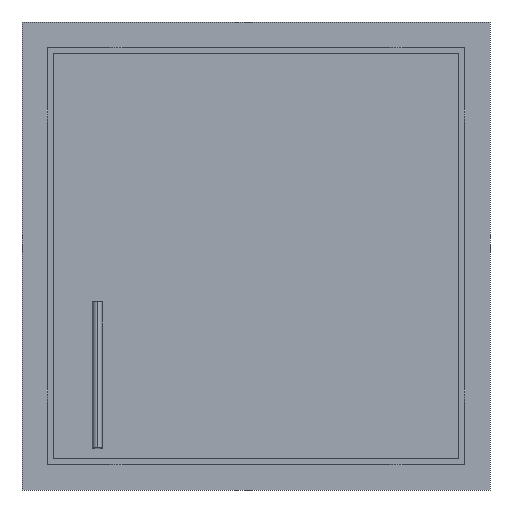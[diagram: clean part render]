
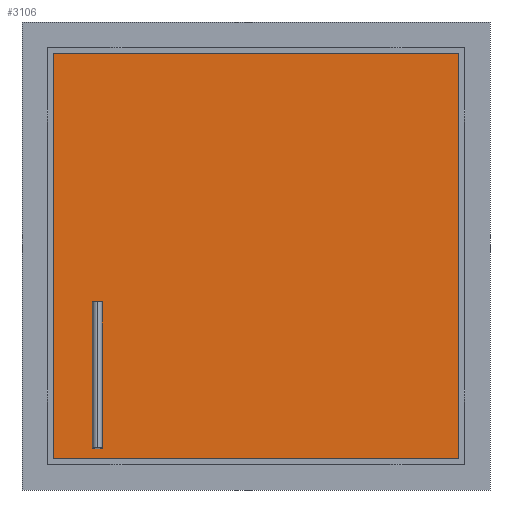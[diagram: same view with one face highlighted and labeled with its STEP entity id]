
A CAD part, front view. The second image highlights one B-rep face of the part: STEP entity #3106.
In plain terms, the highlighted planar face has unit normal (0, -1, 0).
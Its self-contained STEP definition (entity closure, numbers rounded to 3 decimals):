
#2718=DIRECTION('',(0.,0.,-1.));
#2719=VECTOR('',#2718,1048.);
#2720=CARTESIAN_POINT('',(524.,79.,515.));
#2721=LINE('',#2720,#2719);
#2726=DIRECTION('',(-1.,0.,0.));
#2727=VECTOR('',#2726,1048.);
#2728=CARTESIAN_POINT('',(524.,79.,-533.));
#2729=LINE('',#2728,#2727);
#2734=DIRECTION('',(0.,0.,1.));
#2735=VECTOR('',#2734,1048.);
#2736=CARTESIAN_POINT('',(-524.,79.,-533.));
#2737=LINE('',#2736,#2735);
#2742=DIRECTION('',(1.,0.,0.));
#2743=VECTOR('',#2742,1048.);
#2744=CARTESIAN_POINT('',(-524.,79.,515.));
#2745=LINE('',#2744,#2743);
#2891=CARTESIAN_POINT('',(524.,79.,515.));
#2892=CARTESIAN_POINT('',(524.,79.,-533.));
#2893=VERTEX_POINT('',#2891);
#2894=VERTEX_POINT('',#2892);
#2895=CARTESIAN_POINT('',(-524.,79.,-533.));
#2896=VERTEX_POINT('',#2895);
#2897=CARTESIAN_POINT('',(-524.,79.,515.));
#2898=VERTEX_POINT('',#2897);
#3092=CARTESIAN_POINT('',(0.,79.,0.));
#3093=DIRECTION('',(0.,1.,0.));
#3094=DIRECTION('',(0.,0.,-1.));
#3095=AXIS2_PLACEMENT_3D('',#3092,#3093,#3094);
#3096=PLANE('',#3095);
#3097=ORIENTED_EDGE('',*,*,#3082,.T.);
#3099=ORIENTED_EDGE('',*,*,#3098,.T.);
#3101=ORIENTED_EDGE('',*,*,#3100,.T.);
#3103=ORIENTED_EDGE('',*,*,#3102,.T.);
#3104=EDGE_LOOP('',(#3097,#3099,#3101,#3103));
#3105=FACE_OUTER_BOUND('',#3104,.F.);
#3106=ADVANCED_FACE('',(#3105),#3096,.F.);
#3082=EDGE_CURVE('',#2893,#2894,#2721,.T.);
#3098=EDGE_CURVE('',#2894,#2896,#2729,.T.);
#3100=EDGE_CURVE('',#2896,#2898,#2737,.T.);
#3102=EDGE_CURVE('',#2898,#2893,#2745,.T.);
